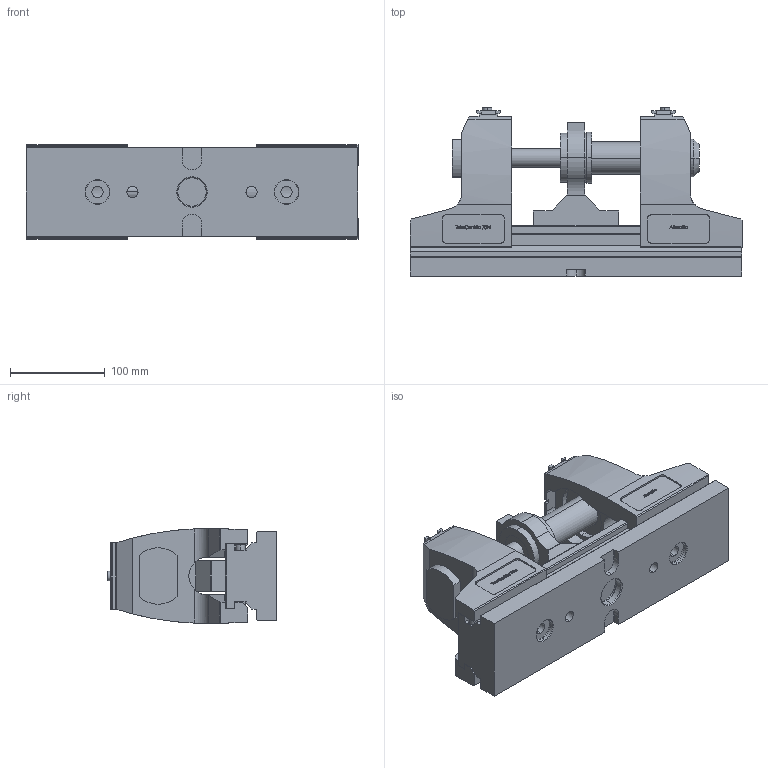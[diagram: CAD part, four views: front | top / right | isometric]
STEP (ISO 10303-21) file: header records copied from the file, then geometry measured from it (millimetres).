
FILE_DESCRIPTION (( 'STEP AP214' ), '1' );
FILE_NAME ('6921548000155.STEP', '2017-09-06T13:17:24', ( '' ), ( '' ), 'SwSTEP 2.0', 'SolidWorks 2016', '' );
FILE_SCHEMA (( 'AUTOMOTIVE_DESIGN' ));
Length unit declared in the file: millimetre
Products named in the file (4): 6921548000155; 3D-6921541002000-M; 3D-6921541001000-M; 3D-6921541000100
Assembly tree (3 placements, depth 2):
  6921548000155
    3D-6921541000100
    3D-6921541002000-M
    3D-6921541001000-M
Bounding box: 351 x 178.3 x 100 mm (x, y, z)
Volume: 2666847.2 mm3; surface area: 330273 mm2
Topology: 3 solids, 3 shells, 958 faces, 2508 edges, 1652 vertices
Faces by surface type: plane 570, bspline 206, cylinder 150, cone 32
Entity records: 40440 total; most frequent: CARTESIAN_POINT 17642, ORIENTED_EDGE 5016, DIRECTION 3844, EDGE_CURVE 2508, LINE 1712, VECTOR 1712, VERTEX_POINT 1652, AXIS2_PLACEMENT_3D 1066
